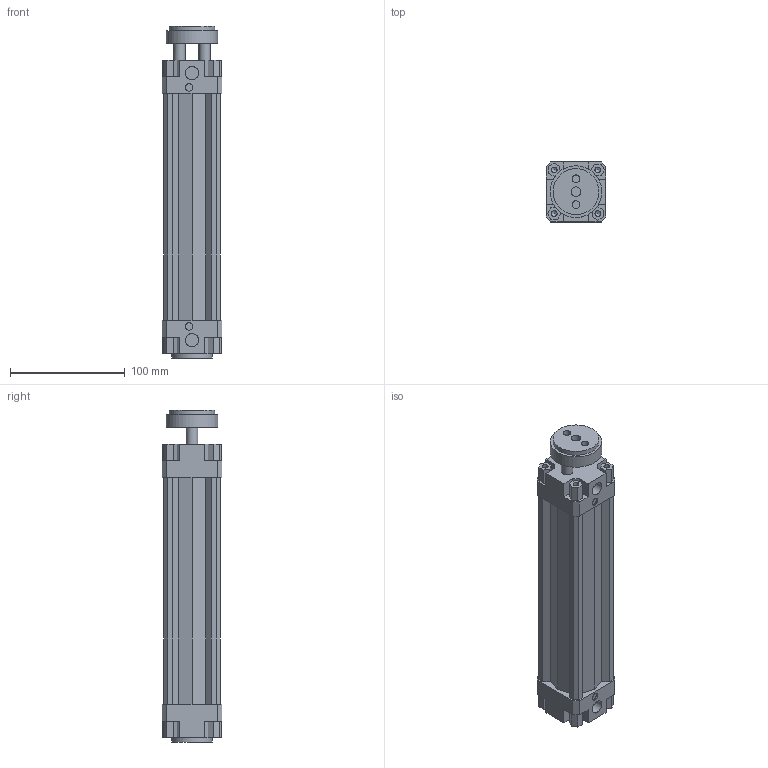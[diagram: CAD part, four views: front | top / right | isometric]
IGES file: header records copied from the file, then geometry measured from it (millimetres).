
Global section: file name: 132#_040_0150_01; native system: Autodesk Inventor 2014; preprocessor: unknown; author: A. Manieri; date: 20161006.154827; units: millimetre
Bounding box: 52 x 52 x 289 mm (x, y, z)
Volume: 385939.7 mm3; surface area: 121760.8 mm2
Topology: 2 solids, 2 shells, 180 faces, 492 edges, 336 vertices
Faces by surface type: bspline 180
